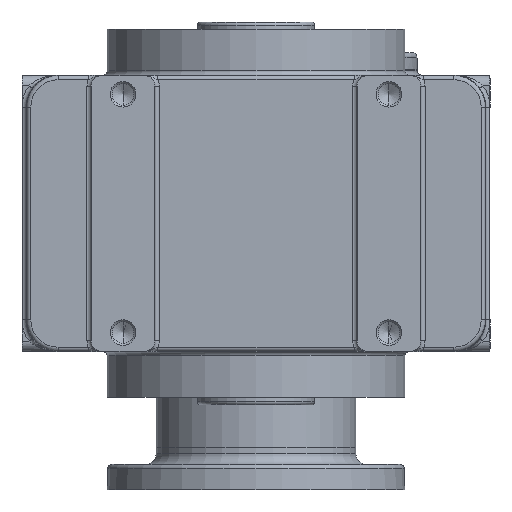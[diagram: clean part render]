
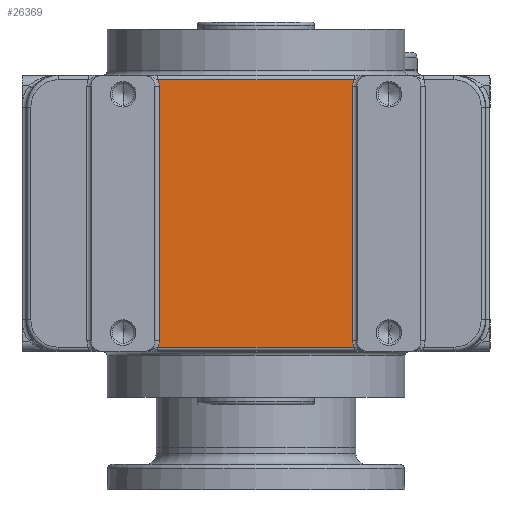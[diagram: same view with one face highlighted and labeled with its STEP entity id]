
A CAD part, front view. The second image highlights one B-rep face of the part: STEP entity #26369.
In plain terms, the highlighted planar face has unit normal (0, -1, 0).
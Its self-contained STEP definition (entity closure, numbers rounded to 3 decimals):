
#26358 = VERTEX_POINT ( 'NONE', #32326 ) ;
#26369 = ADVANCED_FACE ( 'NONE', ( #32356 ), #32355, .T. ) ;
#26370 = EDGE_LOOP ( 'NONE', ( #26371, #26427, #26430, #26433, #26436, #26439, #26411, #26414 ) ) ;
#26371 = ORIENTED_EDGE ( 'NONE', *, *, #26372, .T. ) ;
#26372 = EDGE_CURVE ( 'NONE', #26425, #26426, #32350, .T. ) ;
#26411 = ORIENTED_EDGE ( 'NONE', *, *, #26412, .T. ) ;
#26412 = EDGE_CURVE ( 'NONE', #26358, #26413, #32451, .T. ) ;
#26413 = VERTEX_POINT ( 'NONE', #32446 ) ;
#26414 = ORIENTED_EDGE ( 'NONE', *, *, #26415, .T. ) ;
#26415 = EDGE_CURVE ( 'NONE', #26413, #26425, #32445, .T. ) ;
#26425 = VERTEX_POINT ( 'NONE', #32489 ) ;
#26426 = VERTEX_POINT ( 'NONE', #32488 ) ;
#26427 = ORIENTED_EDGE ( 'NONE', *, *, #26428, .T. ) ;
#26428 = EDGE_CURVE ( 'NONE', #26426, #26429, #32487, .T. ) ;
#26429 = VERTEX_POINT ( 'NONE', #32483 ) ;
#26430 = ORIENTED_EDGE ( 'NONE', *, *, #26431, .T. ) ;
#26431 = EDGE_CURVE ( 'NONE', #26429, #26432, #32482, .T. ) ;
#26432 = VERTEX_POINT ( 'NONE', #32477 ) ;
#26433 = ORIENTED_EDGE ( 'NONE', *, *, #26434, .T. ) ;
#26434 = EDGE_CURVE ( 'NONE', #26432, #26435, #32476, .T. ) ;
#26435 = VERTEX_POINT ( 'NONE', #32472 ) ;
#26436 = ORIENTED_EDGE ( 'NONE', *, *, #26437, .T. ) ;
#26437 = EDGE_CURVE ( 'NONE', #26435, #26438, #32471, .T. ) ;
#26438 = VERTEX_POINT ( 'NONE', #32466 ) ;
#26439 = ORIENTED_EDGE ( 'NONE', *, *, #26440, .T. ) ;
#26440 = EDGE_CURVE ( 'NONE', #26438, #26358, #32465, .T. ) ;
#32326 = CARTESIAN_POINT ( 'NONE',  ( -46.203, -98., 127.86 ) ) ;
#32346 = DIRECTION ( 'NONE',  ( 0., 0., -1. ) ) ;
#32347 = DIRECTION ( 'NONE',  ( 0., 1., 0. ) ) ;
#32348 = CARTESIAN_POINT ( 'NONE',  ( -52.5, -98., 5.157 ) ) ;
#32349 = AXIS2_PLACEMENT_3D ( 'NONE', #32348, #32347, #32346 ) ;
#32350 = CIRCLE ( 'NONE', #32349, 6.983 ) ;
#32351 = DIRECTION ( 'NONE',  ( 0., 0., -1. ) ) ;
#32352 = DIRECTION ( 'NONE',  ( 0., -1., 0. ) ) ;
#32353 = CARTESIAN_POINT ( 'NONE',  ( -93., -98., 115. ) ) ;
#32354 = AXIS2_PLACEMENT_3D ( 'NONE', #32353, #32352, #32351 ) ;
#32355 = PLANE ( 'NONE',  #32354 ) ;
#32356 = FACE_OUTER_BOUND ( 'NONE', #26370, .T. ) ;
#32442 = DIRECTION ( 'NONE',  ( 0., 0., -1. ) ) ;
#32443 = VECTOR ( 'NONE', #32442, 1000. ) ;
#32444 = CARTESIAN_POINT ( 'NONE',  ( -45.517, -98., 115. ) ) ;
#32445 = LINE ( 'NONE', #32444, #32443 ) ;
#32446 = CARTESIAN_POINT ( 'NONE',  ( -45.517, -98., 124.843 ) ) ;
#32447 = DIRECTION ( 'NONE',  ( 0., 0., -1. ) ) ;
#32448 = DIRECTION ( 'NONE',  ( 0., 1., 0. ) ) ;
#32449 = CARTESIAN_POINT ( 'NONE',  ( -52.5, -98., 124.843 ) ) ;
#32450 = AXIS2_PLACEMENT_3D ( 'NONE', #32449, #32448, #32447 ) ;
#32451 = CIRCLE ( 'NONE', #32450, 6.983 ) ;
#32462 = DIRECTION ( 'NONE',  ( -1., 0., 0. ) ) ;
#32463 = VECTOR ( 'NONE', #32462, 1000. ) ;
#32464 = CARTESIAN_POINT ( 'NONE',  ( -52.5, -98., 127.86 ) ) ;
#32465 = LINE ( 'NONE', #32464, #32463 ) ;
#32466 = CARTESIAN_POINT ( 'NONE',  ( 46.203, -98., 127.86 ) ) ;
#32467 = DIRECTION ( 'NONE',  ( 0., 0., -1. ) ) ;
#32468 = DIRECTION ( 'NONE',  ( 0., 1., 0. ) ) ;
#32469 = CARTESIAN_POINT ( 'NONE',  ( 52.5, -98., 124.843 ) ) ;
#32470 = AXIS2_PLACEMENT_3D ( 'NONE', #32469, #32468, #32467 ) ;
#32471 = CIRCLE ( 'NONE', #32470, 6.983 ) ;
#32472 = CARTESIAN_POINT ( 'NONE',  ( 45.517, -98., 124.843 ) ) ;
#32473 = DIRECTION ( 'NONE',  ( 0., 0., 1. ) ) ;
#32474 = VECTOR ( 'NONE', #32473, 1000. ) ;
#32475 = CARTESIAN_POINT ( 'NONE',  ( 45.517, -98., 115. ) ) ;
#32476 = LINE ( 'NONE', #32475, #32474 ) ;
#32477 = CARTESIAN_POINT ( 'NONE',  ( 45.517, -98., 5.157 ) ) ;
#32478 = DIRECTION ( 'NONE',  ( 0., 0., -1. ) ) ;
#32479 = DIRECTION ( 'NONE',  ( 0., 1., 0. ) ) ;
#32480 = CARTESIAN_POINT ( 'NONE',  ( 52.5, -98., 5.157 ) ) ;
#32481 = AXIS2_PLACEMENT_3D ( 'NONE', #32480, #32479, #32478 ) ;
#32482 = CIRCLE ( 'NONE', #32481, 6.983 ) ;
#32483 = CARTESIAN_POINT ( 'NONE',  ( 46.203, -98., 2.14 ) ) ;
#32484 = DIRECTION ( 'NONE',  ( 1., 0., 0. ) ) ;
#32485 = VECTOR ( 'NONE', #32484, 1000. ) ;
#32486 = CARTESIAN_POINT ( 'NONE',  ( 52.5, -98., 2.14 ) ) ;
#32487 = LINE ( 'NONE', #32486, #32485 ) ;
#32488 = CARTESIAN_POINT ( 'NONE',  ( -46.203, -98., 2.14 ) ) ;
#32489 = CARTESIAN_POINT ( 'NONE',  ( -45.517, -98., 5.157 ) ) ;
